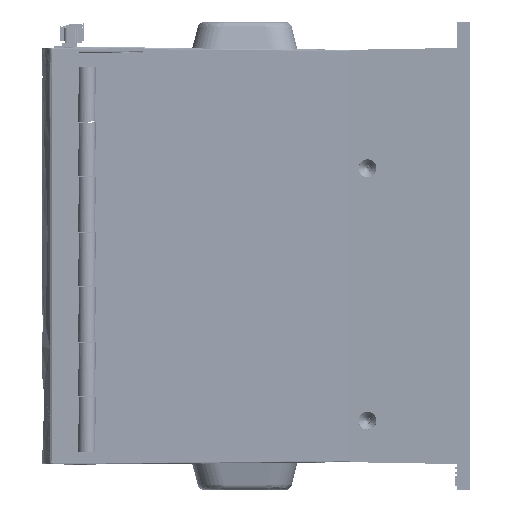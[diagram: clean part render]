
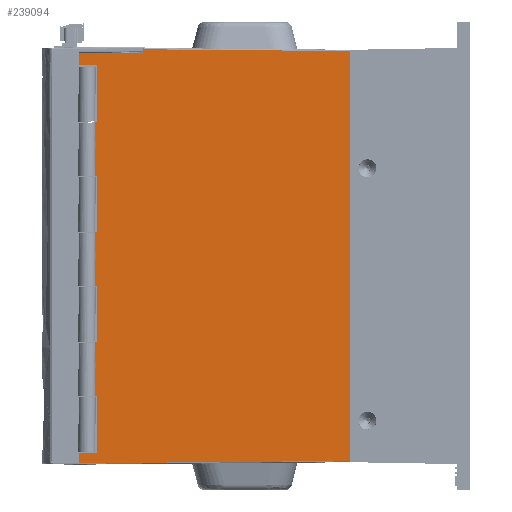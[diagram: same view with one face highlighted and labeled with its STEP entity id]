
A CAD part, left-side view. The second image highlights one B-rep face of the part: STEP entity #239094.
In plain terms, the highlighted planar face has unit normal (-1, -0.009, 0) as drawn and (-1, 0, -0.009) by its records, which use the part's own axes.
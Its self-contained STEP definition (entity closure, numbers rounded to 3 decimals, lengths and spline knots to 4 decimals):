
#6776=ELLIPSE('',#250053,0.025,0.025);
#14258=PLANE('',#250052);
#24596=FACE_OUTER_BOUND('',#35350,.T.);
#35350=EDGE_LOOP('',(#180928,#180929,#180930,#180931,#180932,#180933,#180934,
#180935,#180936,#180937,#180938,#180939,#180940,#180941,#180942,#180943,
#180944,#180945,#180946,#180947,#180948,#180949,#180950,#180951));
#53550=LINE('',#330404,#83263);
#53551=LINE('',#330406,#83264);
#53552=LINE('',#330408,#83265);
#53553=LINE('',#330410,#83266);
#53554=LINE('',#330412,#83267);
#53555=LINE('',#330414,#83268);
#53556=LINE('',#330416,#83269);
#53557=LINE('',#330418,#83270);
#53558=LINE('',#330420,#83271);
#53559=LINE('',#330422,#83272);
#53560=LINE('',#330424,#83273);
#53561=LINE('',#330426,#83274);
#53562=LINE('',#330428,#83275);
#53563=LINE('',#330430,#83276);
#53564=LINE('',#330432,#83277);
#53565=LINE('',#330434,#83278);
#53566=LINE('',#330436,#83279);
#53567=LINE('',#330438,#83280);
#53568=LINE('',#330440,#83281);
#53569=LINE('',#330442,#83282);
#53570=LINE('',#330444,#83283);
#53571=LINE('',#330446,#83284);
#53572=LINE('',#330448,#83285);
#83263=VECTOR('',#267208,0.0541);
#83264=VECTOR('',#267209,0.0851);
#83265=VECTOR('',#267210,1.1764);
#83266=VECTOR('',#267211,0.212);
#83267=VECTOR('',#267212,0.3364);
#83268=VECTOR('',#267213,1.04);
#83269=VECTOR('',#267214,0.0391);
#83270=VECTOR('',#267215,0.9693);
#83271=VECTOR('',#267216,0.0391);
#83272=VECTOR('',#267217,1.03);
#83273=VECTOR('',#267218,0.0391);
#83274=VECTOR('',#267219,0.9693);
#83275=VECTOR('',#267220,0.0391);
#83276=VECTOR('',#267221,1.03);
#83277=VECTOR('',#267222,0.0391);
#83278=VECTOR('',#267223,0.9693);
#83279=VECTOR('',#267224,0.0391);
#83280=VECTOR('',#267225,1.04);
#83281=VECTOR('',#267226,0.3364);
#83282=VECTOR('',#267227,0.1831);
#83283=VECTOR('',#267228,4.9404);
#83284=VECTOR('',#267229,7.45);
#83285=VECTOR('',#267230,3.7139);
#113064=VERTEX_POINT('',#330402);
#113065=VERTEX_POINT('',#330403);
#113066=VERTEX_POINT('',#330405);
#113067=VERTEX_POINT('',#330407);
#113068=VERTEX_POINT('',#330409);
#113069=VERTEX_POINT('',#330411);
#113070=VERTEX_POINT('',#330413);
#113071=VERTEX_POINT('',#330415);
#113072=VERTEX_POINT('',#330417);
#113073=VERTEX_POINT('',#330419);
#113074=VERTEX_POINT('',#330421);
#113075=VERTEX_POINT('',#330423);
#113076=VERTEX_POINT('',#330425);
#113077=VERTEX_POINT('',#330427);
#113078=VERTEX_POINT('',#330429);
#113079=VERTEX_POINT('',#330431);
#113080=VERTEX_POINT('',#330433);
#113081=VERTEX_POINT('',#330435);
#113082=VERTEX_POINT('',#330437);
#113083=VERTEX_POINT('',#330439);
#113084=VERTEX_POINT('',#330441);
#113085=VERTEX_POINT('',#330443);
#113086=VERTEX_POINT('',#330445);
#113087=VERTEX_POINT('',#330447);
#143394=EDGE_CURVE('',#113064,#113065,#53550,.T.);
#143395=EDGE_CURVE('',#113066,#113064,#53551,.T.);
#143396=EDGE_CURVE('',#113066,#113067,#53552,.T.);
#143397=EDGE_CURVE('',#113067,#113068,#53553,.T.);
#143398=EDGE_CURVE('',#113068,#113069,#53554,.T.);
#143399=EDGE_CURVE('',#113069,#113070,#53555,.T.);
#143400=EDGE_CURVE('',#113070,#113071,#53556,.F.);
#143401=EDGE_CURVE('',#113071,#113072,#53557,.T.);
#143402=EDGE_CURVE('',#113073,#113072,#53558,.F.);
#143403=EDGE_CURVE('',#113073,#113074,#53559,.T.);
#143404=EDGE_CURVE('',#113074,#113075,#53560,.F.);
#143405=EDGE_CURVE('',#113075,#113076,#53561,.T.);
#143406=EDGE_CURVE('',#113077,#113076,#53562,.F.);
#143407=EDGE_CURVE('',#113077,#113078,#53563,.T.);
#143408=EDGE_CURVE('',#113078,#113079,#53564,.F.);
#143409=EDGE_CURVE('',#113079,#113080,#53565,.T.);
#143410=EDGE_CURVE('',#113081,#113080,#53566,.F.);
#143411=EDGE_CURVE('',#113081,#113082,#53567,.T.);
#143412=EDGE_CURVE('',#113082,#113083,#53568,.T.);
#143413=EDGE_CURVE('',#113083,#113084,#53569,.T.);
#143414=EDGE_CURVE('',#113085,#113084,#53570,.T.);
#143415=EDGE_CURVE('',#113085,#113086,#53571,.T.);
#143416=EDGE_CURVE('',#113087,#113086,#53572,.T.);
#143417=EDGE_CURVE('',#113065,#113087,#6776,.F.);
#180928=ORIENTED_EDGE('',*,*,#143394,.F.);
#180929=ORIENTED_EDGE('',*,*,#143395,.F.);
#180930=ORIENTED_EDGE('',*,*,#143396,.T.);
#180931=ORIENTED_EDGE('',*,*,#143397,.T.);
#180932=ORIENTED_EDGE('',*,*,#143398,.T.);
#180933=ORIENTED_EDGE('',*,*,#143399,.T.);
#180934=ORIENTED_EDGE('',*,*,#143400,.T.);
#180935=ORIENTED_EDGE('',*,*,#143401,.T.);
#180936=ORIENTED_EDGE('',*,*,#143402,.F.);
#180937=ORIENTED_EDGE('',*,*,#143403,.T.);
#180938=ORIENTED_EDGE('',*,*,#143404,.T.);
#180939=ORIENTED_EDGE('',*,*,#143405,.T.);
#180940=ORIENTED_EDGE('',*,*,#143406,.F.);
#180941=ORIENTED_EDGE('',*,*,#143407,.T.);
#180942=ORIENTED_EDGE('',*,*,#143408,.T.);
#180943=ORIENTED_EDGE('',*,*,#143409,.T.);
#180944=ORIENTED_EDGE('',*,*,#143410,.F.);
#180945=ORIENTED_EDGE('',*,*,#143411,.T.);
#180946=ORIENTED_EDGE('',*,*,#143412,.T.);
#180947=ORIENTED_EDGE('',*,*,#143413,.T.);
#180948=ORIENTED_EDGE('',*,*,#143414,.F.);
#180949=ORIENTED_EDGE('',*,*,#143415,.T.);
#180950=ORIENTED_EDGE('',*,*,#143416,.F.);
#180951=ORIENTED_EDGE('',*,*,#143417,.F.);
#239094=ADVANCED_FACE('',(#24596),#14258,.T.);
#250052=AXIS2_PLACEMENT_3D('',#330401,#267206,#267207);
#250053=AXIS2_PLACEMENT_3D('',#330449,#267231,#267232);
#267206=DIRECTION('center_axis',(-1.,0.,
-0.009));
#267207=DIRECTION('ref_axis',(-0.009,0.,1.));
#267208=DIRECTION('',(0.008,0.382,-0.924));
#267209=DIRECTION('',(0.,-1.,0.));
#267210=DIRECTION('',(-0.009,0.009,1.));
#267211=DIRECTION('',(0.,1.,0.));
#267212=DIRECTION('',(0.009,0.009,-1.));
#267213=DIRECTION('',(0.,1.,0.));
#267214=DIRECTION('',(0.009,-0.009,-1.));
#267215=DIRECTION('',(0.,1.,0.));
#267216=DIRECTION('',(0.009,0.009,-1.));
#267217=DIRECTION('',(0.,1.,0.));
#267218=DIRECTION('',(0.009,-0.009,-1.));
#267219=DIRECTION('',(0.,1.,0.));
#267220=DIRECTION('',(0.009,0.009,-1.));
#267221=DIRECTION('',(0.,1.,0.));
#267222=DIRECTION('',(0.009,-0.009,-1.));
#267223=DIRECTION('',(0.,1.,0.));
#267224=DIRECTION('',(0.009,0.009,-1.));
#267225=DIRECTION('',(0.,1.,0.));
#267226=DIRECTION('',(-0.009,0.009,1.));
#267227=DIRECTION('',(0.,1.,0.));
#267228=DIRECTION('',(-0.009,0.009,1.));
#267229=DIRECTION('',(0.,-1.,0.));
#267230=DIRECTION('',(0.009,0.009,-1.));
#267231=DIRECTION('center_axis',(0.,0.,1.));
#267232=DIRECTION('ref_axis',(-0.707,-0.707,0.));
#330401=CARTESIAN_POINT('Origin',(-5.4518,3.7495,2.4999));
#330402=CARTESIAN_POINT('',(-5.4634,-0.0286,3.8237));
#330403=CARTESIAN_POINT('',(-5.4629,-0.008,3.7737));
#330404=CARTESIAN_POINT('',(-5.4525,0.4867,2.5766));
#330405=CARTESIAN_POINT('',(-5.4634,0.0565,3.8237));
#330406=CARTESIAN_POINT('',(-5.4634,-0.0005,3.8237));
#330407=CARTESIAN_POINT('',(-5.4736,0.0667,5.));
#330408=CARTESIAN_POINT('',(-5.4628,0.0558,3.7539));
#330409=CARTESIAN_POINT('',(-5.4736,0.2787,5.));
#330410=CARTESIAN_POINT('',(-5.4736,1.8748,5.));
#330411=CARTESIAN_POINT('',(-5.4707,0.2816,4.6636));
#330412=CARTESIAN_POINT('',(-5.461,0.2913,3.5547));
#330413=CARTESIAN_POINT('',(-5.4707,1.3216,4.6636));
#330414=CARTESIAN_POINT('',(-5.4707,5.5406,4.6636));
#330415=CARTESIAN_POINT('',(-5.471,1.322,4.7027));
#330416=CARTESIAN_POINT('',(-5.4618,1.3127,3.6391));
#330417=CARTESIAN_POINT('',(-5.471,2.2913,4.7027));
#330418=CARTESIAN_POINT('',(-5.471,1.3216,4.7027));
#330419=CARTESIAN_POINT('',(-5.4707,2.2916,4.6636));
#330420=CARTESIAN_POINT('',(-5.462,2.3003,3.6695));
#330421=CARTESIAN_POINT('',(-5.4707,3.3216,4.6636));
#330422=CARTESIAN_POINT('',(-5.4707,5.5406,4.6636));
#330423=CARTESIAN_POINT('',(-5.471,3.322,4.7027));
#330424=CARTESIAN_POINT('',(-5.4617,3.3126,3.6303));
#330425=CARTESIAN_POINT('',(-5.471,4.2913,4.7027));
#330426=CARTESIAN_POINT('',(-5.471,3.3216,4.7027));
#330427=CARTESIAN_POINT('',(-5.4707,4.2916,4.6636));
#330428=CARTESIAN_POINT('',(-5.4621,4.3002,3.6782));
#330429=CARTESIAN_POINT('',(-5.4707,5.3216,4.6636));
#330430=CARTESIAN_POINT('',(-5.4707,5.5406,4.6636));
#330431=CARTESIAN_POINT('',(-5.471,5.322,4.7027));
#330432=CARTESIAN_POINT('',(-5.4616,5.3125,3.6216));
#330433=CARTESIAN_POINT('',(-5.471,6.2913,4.7027));
#330434=CARTESIAN_POINT('',(-5.471,5.3216,4.7027));
#330435=CARTESIAN_POINT('',(-5.4707,6.2916,4.6636));
#330436=CARTESIAN_POINT('',(-5.4622,6.3002,3.6869));
#330437=CARTESIAN_POINT('',(-5.4707,7.3316,4.6636));
#330438=CARTESIAN_POINT('',(-5.4707,5.5406,4.6636));
#330439=CARTESIAN_POINT('',(-5.4736,7.3346,5.));
#330440=CARTESIAN_POINT('',(-5.4625,7.3234,3.7224));
#330441=CARTESIAN_POINT('',(-5.4736,7.5176,5.));
#330442=CARTESIAN_POINT('',(-5.4736,1.8748,5.));
#330443=CARTESIAN_POINT('',(-5.4305,7.4745,0.06));
#330444=CARTESIAN_POINT('',(-5.4624,7.5064,3.7097));
#330445=CARTESIAN_POINT('',(-5.4305,0.0245,0.06));
#330446=CARTESIAN_POINT('',(-5.4305,3.7495,0.06));
#330447=CARTESIAN_POINT('',(-5.4629,-0.0079,3.7737));
#330448=CARTESIAN_POINT('',(-5.4406,0.0144,1.21));
#330449=CARTESIAN_POINT('Origin',(-5.4379,-0.0079,
3.7737));
